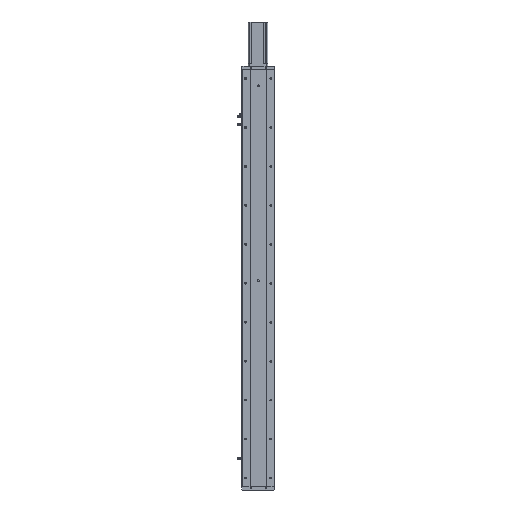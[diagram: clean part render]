
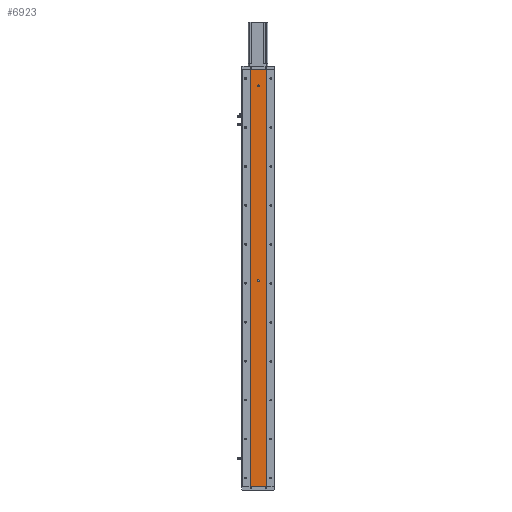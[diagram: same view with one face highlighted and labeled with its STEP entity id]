
A CAD part, left-side view. The second image highlights one B-rep face of the part: STEP entity #6923.
In plain terms, the highlighted planar face has unit normal (-1, 0, 0).
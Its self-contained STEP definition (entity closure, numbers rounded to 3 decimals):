
#1 = CARTESIAN_POINT ( 'NONE',  ( -18.926, 0., 632. ) ) ;
#13 = ORIENTED_EDGE ( 'NONE', *, *, #34763, .F. ) ;
#193 = CARTESIAN_POINT ( 'NONE',  ( -18.926, -24.785, 1285. ) ) ;
#425 = DIRECTION ( 'NONE',  ( -1., 0., 0. ) ) ;
#522 = CIRCLE ( 'NONE', #27734, 3. ) ;
#2495 = VECTOR ( 'NONE', #24700, 1000. ) ;
#2607 = FACE_BOUND ( 'NONE', #27112, .T. ) ;
#2998 = CARTESIAN_POINT ( 'NONE',  ( -18.926, 0., 638. ) ) ;
#3359 = VECTOR ( 'NONE', #41979, 1000. ) ;
#3440 = LINE ( 'NONE', #193, #30467 ) ;
#3673 = CARTESIAN_POINT ( 'NONE',  ( -18.926, 0., 1235. ) ) ;
#4720 = ORIENTED_EDGE ( 'NONE', *, *, #37859, .F. ) ;
#4799 = CARTESIAN_POINT ( 'NONE',  ( -18.926, 0., 635. ) ) ;
#6590 = EDGE_CURVE ( 'NONE', #32748, #33999, #14264, .T. ) ;
#6923 = ADVANCED_FACE ( 'NONE', ( #11985, #2607, #21388 ), #8367, .F. ) ;
#7137 = CARTESIAN_POINT ( 'NONE',  ( -18.926, 0., 635. ) ) ;
#7237 = DIRECTION ( 'NONE',  ( 0., 0., 1. ) ) ;
#7881 = CIRCLE ( 'NONE', #10582, 3. ) ;
#8366 = DIRECTION ( 'NONE',  ( 0., 0., 1. ) ) ;
#8367 = PLANE ( 'NONE',  #11564 ) ;
#8527 = DIRECTION ( 'NONE',  ( 1., 0., 0. ) ) ;
#8550 = AXIS2_PLACEMENT_3D ( 'NONE', #4799, #29453, #8366 ) ;
#9773 = CIRCLE ( 'NONE', #43833, 3. ) ;
#10582 = AXIS2_PLACEMENT_3D ( 'NONE', #3673, #28349, #7237 ) ;
#10673 = DIRECTION ( 'NONE',  ( 0., 0., 1. ) ) ;
#11564 = AXIS2_PLACEMENT_3D ( 'NONE', #29614, #8527, #33180 ) ;
#11985 = FACE_BOUND ( 'NONE', #37480, .T. ) ;
#12862 = VERTEX_POINT ( 'NONE', #2998 ) ;
#13618 = ORIENTED_EDGE ( 'NONE', *, *, #14917, .F. ) ;
#14264 = LINE ( 'NONE', #45619, #31886 ) ;
#14917 = EDGE_CURVE ( 'NONE', #42389, #44365, #9773, .T. ) ;
#17277 = CARTESIAN_POINT ( 'NONE',  ( -18.926, 24.785, 0. ) ) ;
#17812 = EDGE_CURVE ( 'NONE', #44365, #42389, #7881, .T. ) ;
#17827 = CARTESIAN_POINT ( 'NONE',  ( -18.926, 24.785, 0. ) ) ;
#17871 = EDGE_LOOP ( 'NONE', ( #31686, #13, #36186, #31931 ) ) ;
#19438 = VERTEX_POINT ( 'NONE', #25987 ) ;
#19567 = ORIENTED_EDGE ( 'NONE', *, *, #43127, .F. ) ;
#20357 = EDGE_CURVE ( 'NONE', #32748, #32756, #40023, .T. ) ;
#21307 = CARTESIAN_POINT ( 'NONE',  ( -18.926, 24.785, 1285. ) ) ;
#21388 = FACE_OUTER_BOUND ( 'NONE', #17871, .T. ) ;
#21536 = CARTESIAN_POINT ( 'NONE',  ( -18.926, 0., 1235. ) ) ;
#24454 = DIRECTION ( 'NONE',  ( 0., -1., 0. ) ) ;
#24651 = CARTESIAN_POINT ( 'NONE',  ( -18.926, 0., 1238. ) ) ;
#24700 = DIRECTION ( 'NONE',  ( 0., 0., -1. ) ) ;
#25079 = DIRECTION ( 'NONE',  ( 0., 0., 1. ) ) ;
#25987 = CARTESIAN_POINT ( 'NONE',  ( -18.926, -24.785, 0. ) ) ;
#27011 = VERTEX_POINT ( 'NONE', #1 ) ;
#27112 = EDGE_LOOP ( 'NONE', ( #13618, #41561 ) ) ;
#27734 = AXIS2_PLACEMENT_3D ( 'NONE', #7137, #31775, #10673 ) ;
#28349 = DIRECTION ( 'NONE',  ( -1., 0., 0. ) ) ;
#29231 = CIRCLE ( 'NONE', #8550, 3. ) ;
#29453 = DIRECTION ( 'NONE',  ( -1., 0., 0. ) ) ;
#29614 = CARTESIAN_POINT ( 'NONE',  ( -18.926, 24.785, 1285. ) ) ;
#30379 = LINE ( 'NONE', #17277, #3359 ) ;
#30467 = VECTOR ( 'NONE', #35647, 1000. ) ;
#31686 = ORIENTED_EDGE ( 'NONE', *, *, #35218, .T. ) ;
#31775 = DIRECTION ( 'NONE',  ( -1., 0., 0. ) ) ;
#31886 = VECTOR ( 'NONE', #24454, 1000. ) ;
#31931 = ORIENTED_EDGE ( 'NONE', *, *, #20357, .T. ) ;
#32748 = VERTEX_POINT ( 'NONE', #38919 ) ;
#32756 = VERTEX_POINT ( 'NONE', #17827 ) ;
#33180 = DIRECTION ( 'NONE',  ( 0., 0., -1. ) ) ;
#33999 = VERTEX_POINT ( 'NONE', #36514 ) ;
#34763 = EDGE_CURVE ( 'NONE', #33999, #19438, #3440, .T. ) ;
#35218 = EDGE_CURVE ( 'NONE', #32756, #19438, #30379, .T. ) ;
#35647 = DIRECTION ( 'NONE',  ( 0., 0., -1. ) ) ;
#36186 = ORIENTED_EDGE ( 'NONE', *, *, #6590, .F. ) ;
#36426 = CARTESIAN_POINT ( 'NONE',  ( -18.926, 0., 1232. ) ) ;
#36514 = CARTESIAN_POINT ( 'NONE',  ( -18.926, -24.785, 1285. ) ) ;
#37480 = EDGE_LOOP ( 'NONE', ( #4720, #19567 ) ) ;
#37859 = EDGE_CURVE ( 'NONE', #12862, #27011, #522, .T. ) ;
#38919 = CARTESIAN_POINT ( 'NONE',  ( -18.926, 24.785, 1285. ) ) ;
#40023 = LINE ( 'NONE', #21307, #2495 ) ;
#41561 = ORIENTED_EDGE ( 'NONE', *, *, #17812, .F. ) ;
#41979 = DIRECTION ( 'NONE',  ( 0., -1., 0. ) ) ;
#42389 = VERTEX_POINT ( 'NONE', #24651 ) ;
#43127 = EDGE_CURVE ( 'NONE', #27011, #12862, #29231, .T. ) ;
#43833 = AXIS2_PLACEMENT_3D ( 'NONE', #21536, #425, #25079 ) ;
#44365 = VERTEX_POINT ( 'NONE', #36426 ) ;
#45619 = CARTESIAN_POINT ( 'NONE',  ( -18.926, 24.785, 1285. ) ) ;
